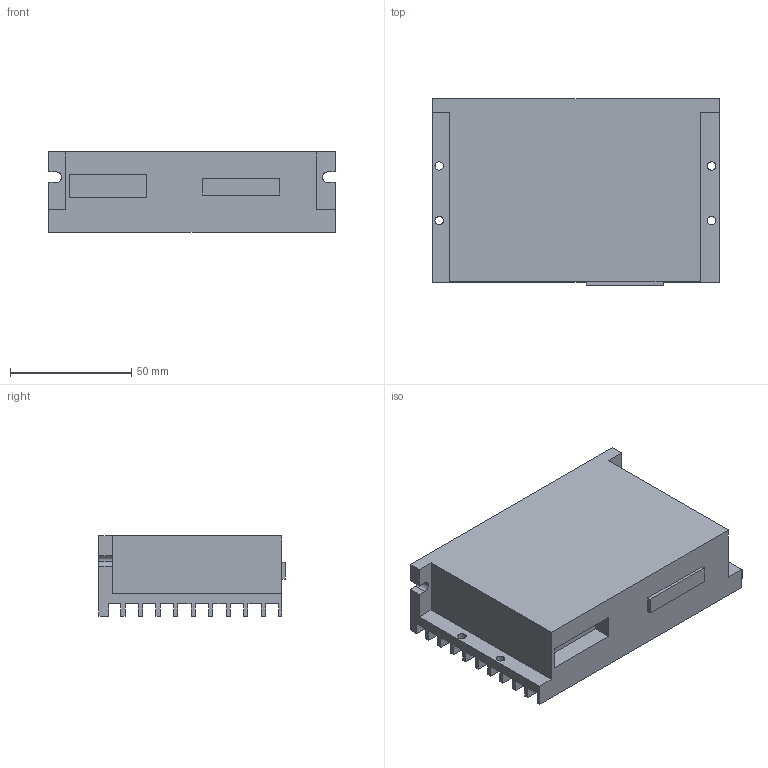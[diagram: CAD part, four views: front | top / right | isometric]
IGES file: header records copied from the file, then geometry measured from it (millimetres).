
Start section:  PTC IGES file: cu_smd-7611_smd-7612.igs
Global section: file name: cu_smd-7611_smd-7612.igs; native system: Pro/ENGINEER by Parametric Technology Corporation; preprocessor: 2011490; author: jbuhisan; organization: Unknown; date: 20130724.104105; units: inch
Bounding box: 118.11 x 76.71 x 33.02 mm (x, y, z)
Surface area: 42667.4 mm2 (no closed solid volume)
Topology: 0 solids, 0 shells, 80 faces, 456 edges, 456 vertices
Faces by surface type: bspline 68, revolution 12
